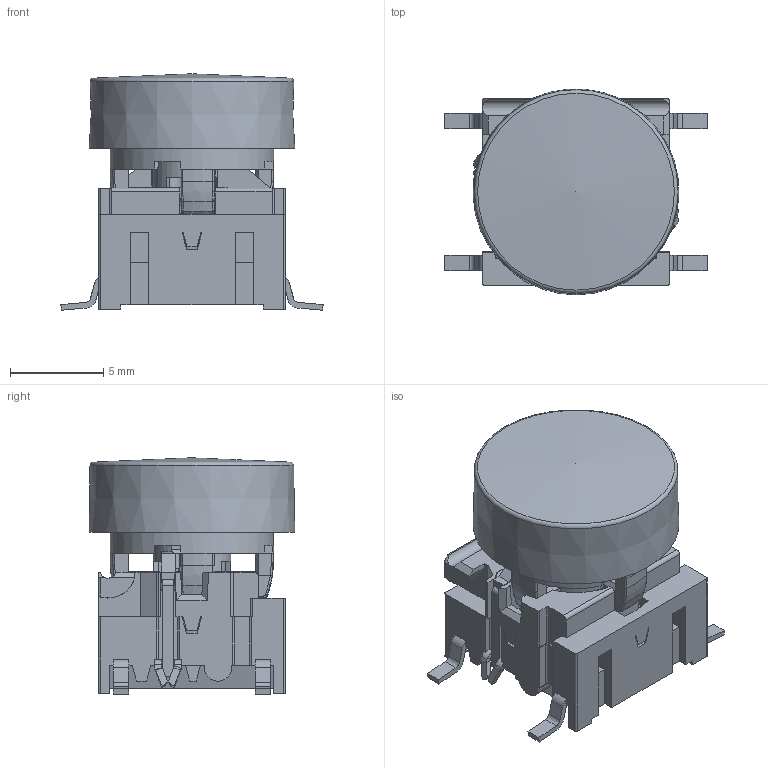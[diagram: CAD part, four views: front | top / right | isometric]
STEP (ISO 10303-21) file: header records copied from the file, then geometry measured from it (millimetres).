
FILE_DESCRIPTION(/* description */ (''),/* implementation_level */ '2;1');
FILE_NAME(/* name */ 'C:\Users\cgh.MEC\Desktop\Traceparts - 3D programserie\STEP filer\il-SMD\5GSH9xxxxxxx+1GAS.stp',/* time_stamp */ '2016-02-29T12:02:39+01:00',/* author */ ('cgh'),/* organization */ (''),/* preprocessor_version */ 'ST-DEVELOPER v15.2',/* originating_system */ 'Autodesk Inventor 2014',/* authorisation */ '');
FILE_SCHEMA (('AUTOMOTIVE_DESIGN { 1 0 10303 214 3 1 1 }'));
Length unit declared in the file: centimetre
Products named in the file (1): cgh
Bounding box: 14.05 x 11.01 x 12.66 mm (x, y, z)
Volume: 710.3 mm3; surface area: 1624 mm2
Topology: 1 solids, 1 shells, 1327 faces, 3738 edges, 2433 vertices
Faces by surface type: plane 837, cylinder 210, bspline 164, torus 65, cone 45, sphere 6
Full cylindrical faces by diameter (mm): 0.9 x1, 1 x3, 2.8 x1, 4.73 x1, 6.5 x1, 7.2 x1, 7.44 x1, 8.76 x1
Entity records: 47187 total; most frequent: CARTESIAN_POINT 12598, ORIENTED_EDGE 7390, DIRECTION 6244, EDGE_CURVE 3687, VERTEX_POINT 2416, LINE 2384, VECTOR 2384, AXIS2_PLACEMENT_3D 1930
